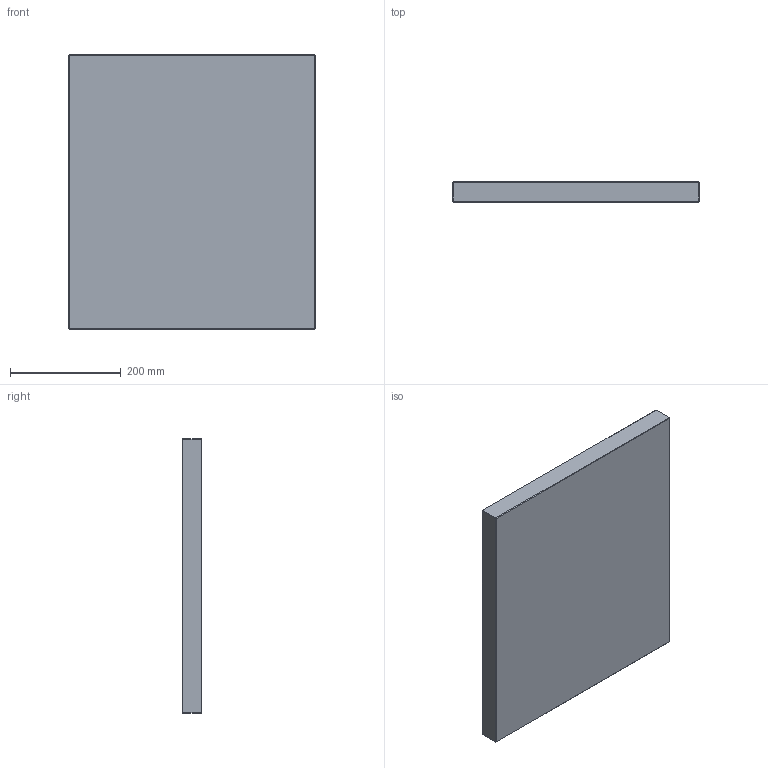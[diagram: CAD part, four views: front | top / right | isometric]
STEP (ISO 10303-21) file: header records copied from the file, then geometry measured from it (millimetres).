
FILE_DESCRIPTION (( 'STEP AP214' ), '1' );
FILE_NAME ('PBA-P-396x496x36.STEP', '2020-03-11T15:55:30', ( 'August' ), ( '' ), 'SwSTEP 2.0', 'SolidWorks 2018', '' );
FILE_SCHEMA (( 'AUTOMOTIVE_DESIGN' ));
Length unit declared in the file: millimetre
Products named in the file (1): PBA-P-396x496x36
Bounding box: 446 x 36 x 496 mm (x, y, z)
Volume: 7961825.3 mm3; surface area: 507961.4 mm2
Topology: 1 solids, 1 shells, 26 faces, 48 edges, 24 vertices
Faces by surface type: plane 26
Entity records: 634 total; most frequent: DIRECTION 102, CARTESIAN_POINT 99, ORIENTED_EDGE 96, EDGE_CURVE 48, LINE 48, VECTOR 48, AXIS2_PLACEMENT_3D 27, ADVANCED_FACE 26
